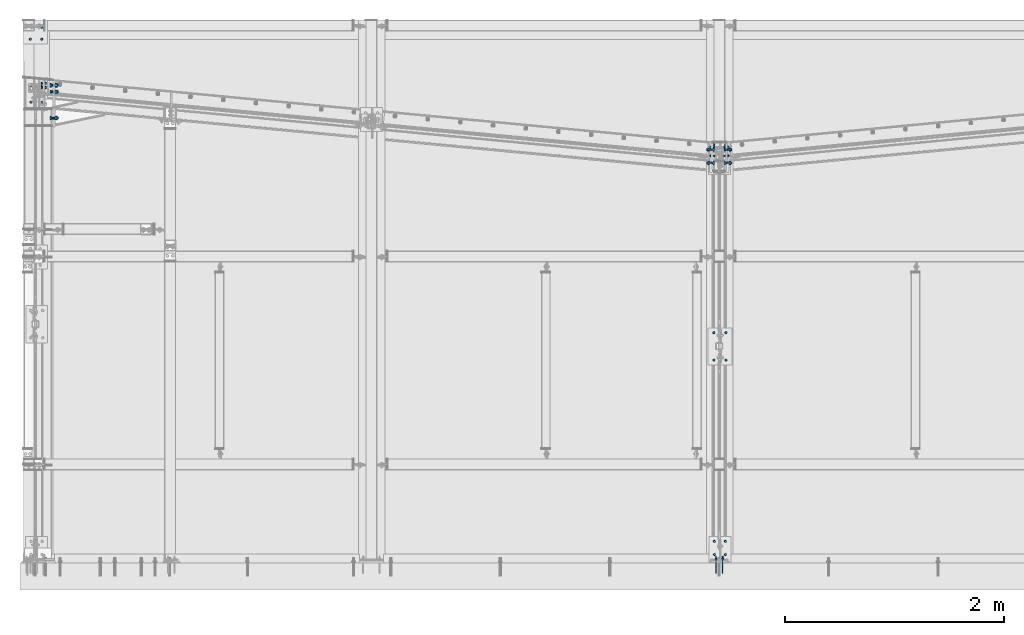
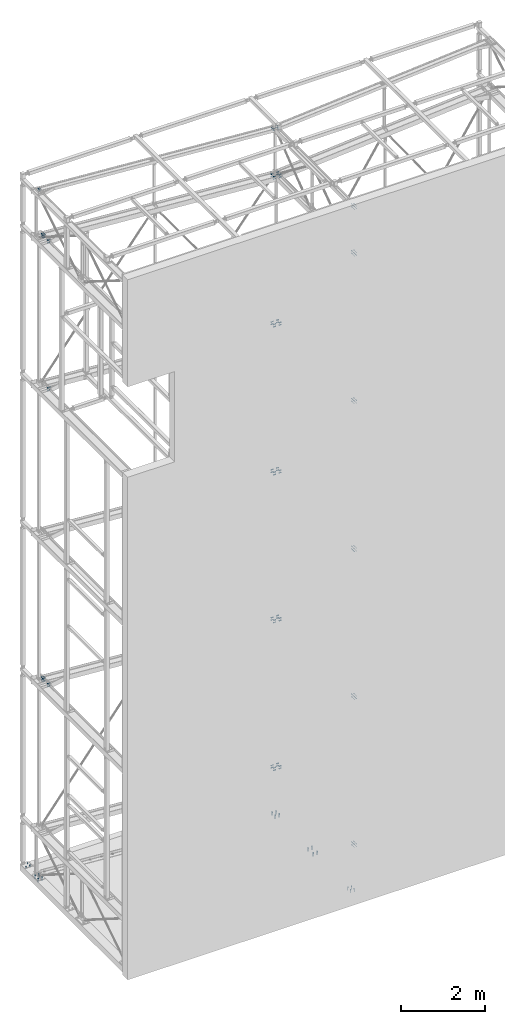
# One storey, part 220 of 271: 29 mechanical fasteners, 21 elements without a shape of their own.
"""IFC2X3 building model written with IfcOpenShell, lengths in millimetres."""

from ifc_helpers import new_model, si_unit, frame, origin_with_axes, origin_2d_with_axis, place, context, subcontext, project, spatial, polyline, circle, outline, extrude, source, transform, mapped, material, type_object, element, aggregate, save


model = new_model("IFC2X3")

# Units and contexts
model_context = context("Model", 3, precision=1e-05, world=origin_with_axes())
body_context = subcontext(model_context, "Body", "Model", "MODEL_VIEW")
ifc_project = project(units=[si_unit("LENGTHUNIT", "METRE", prefix="MILLI"), si_unit("AREAUNIT", "SQUARE_METRE"), si_unit("VOLUMEUNIT", "CUBIC_METRE"), si_unit("MASSUNIT", "GRAM", prefix="KILO"), si_unit("TIMEUNIT", "SECOND"), si_unit("PLANEANGLEUNIT", "RADIAN"), si_unit("SOLIDANGLEUNIT", "STERADIAN"), si_unit("THERMODYNAMICTEMPERATUREUNIT", "DEGREE_CELSIUS"), si_unit("LUMINOUSINTENSITYUNIT", "LUMEN")], contexts=[model_context])

# Site, building, storey
site_placement = place(None, origin_with_axes())
site = spatial("IfcSite", under=ifc_project, at=site_placement, Name="Undefined", CompositionType="ELEMENT")
building_placement = place(site_placement, origin_with_axes())
building = spatial("IfcBuilding", under=site, at=building_placement, Name="Undefined", CompositionType="ELEMENT")
storey_placement = place(building_placement, origin_with_axes())
storey = spatial("IfcBuildingStorey", under=building, at=storey_placement, Name="Undefined", CompositionType="ELEMENT", Elevation=0.0)

# Assembly, mechanical fastener
assembly_1_placement = place(storey_placement, origin_with_axes())
assembly_1 = element("IfcElementAssembly", 1, at=assembly_1_placement, inside=storey, Name="BELKA", AssemblyPlace="NOTDEFINED", PredefinedType="RIGID_FRAME")
ifc_material = material(Name="Undefined")
mechanical_fastener_type = type_object("IfcMechanicalFastenerType", Name="Bolt assembly")
shared_shape_1 = source(origin_with_axes(), body_context, "Body", "SweptSolid", [
    extrude(circle(Radius=7.0, at=origin_2d_with_axis()), frame((0.0, 0.0, 0.0), z_axis=(0.0, 1.0, 0.0), x_axis=(1.0, 0.0, 0.0)), (0.0, 0.0, 1.0), 16.1),
    extrude(outline(polyline([(10.39230484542, 0.0), (5.19615242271, 9.00000000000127), (-5.19615242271, 9.00000000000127), (-10.39230484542, 0.0), (-5.19615242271, -9.00000000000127), (5.19615242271, -9.00000000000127), (10.39230484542, 0.0)])), frame((0.0, -7.5, 0.0), z_axis=(0.0, 1.0, 0.0), x_axis=(1.0, 0.0, 0.0)), (0.0, 0.0, 1.0), 7.5),
    extrude(circle(Radius=6.0, at=origin_2d_with_axis()), frame((0.0, 0.0, 0.0), z_axis=(0.0, 1.0, 0.0), x_axis=(1.0, 0.0, 0.0)), (0.0, 0.0, 1.0), 35.0),
    extrude(circle(Radius=12.0, at=origin_2d_with_axis()), frame((0.0, 16.0, 0.0), z_axis=(0.0, 1.0, 0.0), x_axis=(1.0, 0.0, 0.0)), (0.0, 0.0, 1.0), 2.5),
    extrude(outline(polyline([(10.96965511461, 0.0), (5.484827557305, 9.50000000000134), (-5.484827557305, 9.50000000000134), (-10.96965511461, 0.0), (-5.484827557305, -9.50000000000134), (5.484827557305, -9.50000000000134), (10.96965511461, 0.0)])), frame((0.0, 18.5, 0.0), z_axis=(0.0, 1.0, 0.0), x_axis=(1.0, 0.0, 0.0)), (0.0, 0.0, 1.0), 10.0),
])
mechanical_fastener_1_placement = place(assembly_1_placement, frame((98.0, 4894.0, 0.0), z_axis=(1.0, 0.0, 0.0), x_axis=(0.0, -1.0, 0.0)))
mechanical_fastener_1 = element("IfcMechanicalFastener", 2, at=mechanical_fastener_1_placement, type_object=mechanical_fastener_type, material=ifc_material, Name="Bolt assembly", NominalDiameter=12.0, NominalLength=35.0, context=body_context, shape_type="MappedRepresentation", body=[
    mapped(shared_shape_1, transform((110.0, 0.0, -45.0))),
    mapped(shared_shape_1, transform((0.0, 0.0, 60.0))),
    mapped(shared_shape_1, transform((110.0, 0.0, 60.0))),
])
aggregate(assembly_1, [mechanical_fastener_1])

# Assembly, mechanical fasteners
assembly_2_placement = place(storey_placement, origin_with_axes())
assembly_2 = element("IfcElementAssembly", 3, at=assembly_2_placement, inside=storey, AssemblyPlace="NOTDEFINED", PredefinedType="REINFORCEMENT_UNIT")
shared_shape_2 = source(origin_with_axes(), body_context, "Body", "SweptSolid", [
    extrude(circle(Radius=7.0, at=origin_2d_with_axis()), frame((0.0, 0.0, 0.0), z_axis=(0.0, 1.0, 0.0), x_axis=(1.0, 0.0, 0.0)), (0.0, 0.0, 1.0), 16.1),
    extrude(outline(polyline([(10.39230484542, 0.0), (5.19615242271, 9.00000000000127), (-5.19615242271, 9.00000000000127), (-10.39230484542, 0.0), (-5.19615242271, -9.00000000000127), (5.19615242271, -9.00000000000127), (10.39230484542, 0.0)])), frame((0.0, -7.5, 0.0), z_axis=(0.0, 1.0, 0.0), x_axis=(1.0, 0.0, 0.0)), (0.0, 0.0, 1.0), 7.5),
    extrude(circle(Radius=6.0, at=origin_2d_with_axis()), frame((0.0, 0.0, 0.0), z_axis=(0.0, 1.0, 0.0), x_axis=(1.0, 0.0, 0.0)), (0.0, 0.0, 1.0), 100.0),
    extrude(circle(Radius=12.0, at=origin_2d_with_axis()), frame((0.0, 16.0, 0.0), z_axis=(0.0, 1.0, 0.0), x_axis=(1.0, 0.0, 0.0)), (0.0, 0.0, 1.0), 2.5),
    extrude(outline(polyline([(10.96965511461, 0.0), (5.484827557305, 9.50000000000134), (-5.484827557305, 9.50000000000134), (-10.96965511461, 0.0), (-5.484827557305, -9.50000000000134), (5.484827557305, -9.50000000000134), (10.96965511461, 0.0)])), frame((0.0, 18.5, 0.0), z_axis=(0.0, 1.0, 0.0), x_axis=(1.0, 0.0, 0.0)), (0.0, 0.0, 1.0), 10.0),
])
mechanical_fastener_2_placement = place(assembly_2_placement, frame((6350.99999997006, 3819.0, 0.0), z_axis=(1.0, 0.0, 0.0), x_axis=(0.0, -1.0, 0.0)))
mechanical_fastener_2 = element("IfcMechanicalFastener", 4, at=mechanical_fastener_2_placement, type_object=mechanical_fastener_type, material=ifc_material, Name="Bolt assembly", NominalDiameter=12.0, NominalLength=100.0, context=body_context, shape_type="MappedRepresentation", body=[
    mapped(shared_shape_2, transform((0.0, 0.0, -55.0))),
    mapped(shared_shape_2, transform((150.0, 0.0, -55.0000000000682))),
    mapped(shared_shape_2, transform((0.0, 0.0, 55.0))),
    mapped(shared_shape_2, transform((150.0, 0.0, 54.9999999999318))),
])
mechanical_fastener_3_placement = place(assembly_2_placement, frame((6353.99999995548, 2102.0, 0.0), z_axis=(1.0, 0.0, 0.0), x_axis=(0.0, -1.0, 0.0)))
mechanical_fastener_3 = element("IfcMechanicalFastener", 5, at=mechanical_fastener_3_placement, type_object=mechanical_fastener_type, material=ifc_material, Name="Bolt assembly", NominalDiameter=12.0, NominalLength=100.0, context=body_context, shape_type="MappedRepresentation", body=[
    mapped(shared_shape_2, transform((0.0, 0.0, -55.0))),
    mapped(shared_shape_2, transform((250.0, 0.0, -55.0000000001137))),
    mapped(shared_shape_2, transform((0.0, 0.0, 55.0))),
    mapped(shared_shape_2, transform((250.0, 0.0, 54.9999999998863))),
])
mechanical_fastener_4_placement = place(assembly_2_placement, frame((6352.99999996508, 195.0, 0.0), z_axis=(1.0, 0.0, 0.0), x_axis=(0.0, -1.0, 0.0)))
mechanical_fastener_4 = element("IfcMechanicalFastener", 6, at=mechanical_fastener_4_placement, type_object=mechanical_fastener_type, material=ifc_material, Name="Bolt assembly", NominalDiameter=12.0, NominalLength=100.0, context=body_context, shape_type="MappedRepresentation", body=[
    mapped(shared_shape_2, transform((0.0, 0.0, -50.0))),
    mapped(shared_shape_2, transform((120.0, 0.0, -50.0000000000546))),
    mapped(shared_shape_2, transform((0.0, 0.0, 50.0))),
    mapped(shared_shape_2, transform((120.0, 0.0, 49.9999999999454))),
])
aggregate(assembly_2, [mechanical_fastener_2, mechanical_fastener_3, mechanical_fastener_4])

# Assembly, mechanical fastener
assembly_3_placement = place(storey_placement, origin_with_axes())
assembly_3 = element("IfcElementAssembly", 7, at=assembly_3_placement, inside=storey, AssemblyPlace="NOTDEFINED", PredefinedType="REINFORCEMENT_UNIT")
mechanical_fastener_5_placement = place(assembly_3_placement, frame((110.999999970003, 4359.0, 0.0), z_axis=(1.0, 0.0, 0.0), x_axis=(0.0, -1.0, 0.0)))
mechanical_fastener_5 = element("IfcMechanicalFastener", 8, at=mechanical_fastener_5_placement, type_object=mechanical_fastener_type, material=ifc_material, Name="Bolt assembly", NominalDiameter=12.0, NominalLength=100.0, context=body_context, shape_type="MappedRepresentation", body=[
    mapped(shared_shape_2, transform((0.0, 0.0, -52.5))),
    mapped(shared_shape_2, transform((150.0, 0.0, -52.5))),
    mapped(shared_shape_2, transform((0.0, 0.0, 52.5))),
    mapped(shared_shape_2, transform((150.0, 0.0, 52.5))),
])
aggregate(assembly_3, [mechanical_fastener_5])

assembly_4_placement = place(storey_placement, origin_with_axes())
assembly_4 = element("IfcElementAssembly", 9, at=assembly_4_placement, inside=storey, AssemblyPlace="NOTDEFINED", PredefinedType="RIGID_FRAME")
shared_shape_3 = source(origin_with_axes(), body_context, "Body", "SweptSolid", [
    extrude(circle(Radius=7.0, at=origin_2d_with_axis()), frame((0.0, -12.0, 0.0), z_axis=(0.0, 1.0, 0.0), x_axis=(1.0, 0.0, 0.0)), (0.0, 0.0, 1.0), 12.1),
    extrude(outline(polyline([(5.80237031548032, 0.0), (2.90118515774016, 5.02500009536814), (-2.90118515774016, 5.02500009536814), (-5.80237031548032, 0.0), (-2.90118515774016, -5.02500009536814), (2.90118515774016, -5.02500009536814), (5.80237031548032, 0.0)])), frame((0.0, -128.0, 0.0), z_axis=(0.0, 1.0, 0.0), x_axis=(1.0, 0.0, 0.0)), (0.0, 0.0, 1.0), 116.0),
    extrude(circle(Radius=6.0, at=origin_2d_with_axis()), frame((0.0, -12.0, 0.0), z_axis=(0.0, 1.0, 0.0), x_axis=(1.0, 0.0, 0.0)), (0.0, 0.0, 1.0), 44.0),
    extrude(circle(Radius=12.0, at=origin_2d_with_axis()), frame((0.0, 0.0, 0.0), z_axis=(0.0, 1.0, 0.0), x_axis=(1.0, 0.0, 0.0)), (0.0, 0.0, 1.0), 2.5),
    extrude(outline(polyline([(10.96965511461, 0.0), (5.484827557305, 9.50000000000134), (-5.484827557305, 9.50000000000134), (-10.96965511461, 0.0), (-5.484827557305, -9.50000000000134), (5.484827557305, -9.50000000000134), (10.96965511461, 0.0)])), frame((0.0, 2.50000000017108, 0.0), z_axis=(0.0, 1.0, 0.0), x_axis=(1.0, 0.0, 0.0)), (0.0, 0.0, 1.0), 10.0),
])
mechanical_fastener_6_placement = place(assembly_4_placement, frame((6414.87568709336, 31.3249842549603, 1364.34999990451), z_axis=(0.0, 0.0, -1.0), x_axis=(-1.0, 0.0, 1.38777878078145e-17)))
mechanical_fastener_6 = element("IfcMechanicalFastener", 10, at=mechanical_fastener_6_placement, type_object=mechanical_fastener_type, material=ifc_material, Name="Bolt assembly", NominalDiameter=12.0, NominalLength=44.0, context=body_context, shape_type="MappedRepresentation", body=[
    mapped(shared_shape_3, transform((36.5, 0.0, -40.0))),
    mapped(shared_shape_3, transform((36.5, 0.0, 40.0))),
    mapped(shared_shape_3, transform((96.5, 0.0, -40.0))),
    mapped(shared_shape_3, transform((96.5, 0.0, 40.0))),
])
aggregate(assembly_4, [mechanical_fastener_6])

assembly_5_placement = place(storey_placement, origin_with_axes())
assembly_5 = element("IfcElementAssembly", 11, at=assembly_5_placement, inside=storey, AssemblyPlace="NOTDEFINED", PredefinedType="RIGID_FRAME")
mechanical_fastener_7_placement = place(assembly_5_placement, frame((6405.37568709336, 31.3249842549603, 20004.3499999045), z_axis=(0.0, 0.0, -1.0), x_axis=(-1.0, 0.0, 1.38777878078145e-17)))
mechanical_fastener_7 = element("IfcMechanicalFastener", 12, at=mechanical_fastener_7_placement, type_object=mechanical_fastener_type, material=ifc_material, Name="Bolt assembly", NominalDiameter=12.0, NominalLength=44.0, context=body_context, shape_type="MappedRepresentation", body=[
    mapped(shared_shape_3, transform((27.0, 0.0, -40.0))),
    mapped(shared_shape_3, transform((27.0, 0.0, 40.0))),
    mapped(shared_shape_3, transform((87.0, 0.0, -40.0))),
    mapped(shared_shape_3, transform((87.0, 0.0, 40.0))),
])
aggregate(assembly_5, [mechanical_fastener_7])

assembly_6_placement = place(storey_placement, origin_with_axes())
assembly_6 = element("IfcElementAssembly", 13, at=assembly_6_placement, inside=storey, AssemblyPlace="NOTDEFINED", PredefinedType="RIGID_FRAME")
mechanical_fastener_8_placement = place(assembly_6_placement, frame((6414.87568709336, 31.3249842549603, 18644.3499999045), z_axis=(0.0, 0.0, -1.0), x_axis=(-1.0, 0.0, 1.38777878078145e-17)))
mechanical_fastener_8 = element("IfcMechanicalFastener", 14, at=mechanical_fastener_8_placement, type_object=mechanical_fastener_type, material=ifc_material, Name="Bolt assembly", NominalDiameter=12.0, NominalLength=44.0, context=body_context, shape_type="MappedRepresentation", body=[
    mapped(shared_shape_3, transform((36.5, 0.0, -40.0))),
    mapped(shared_shape_3, transform((36.5, 0.0, 40.0))),
    mapped(shared_shape_3, transform((96.5, 0.0, -40.0))),
    mapped(shared_shape_3, transform((96.5, 0.0, 40.0))),
])
aggregate(assembly_6, [mechanical_fastener_8])

assembly_7_placement = place(storey_placement, origin_with_axes())
assembly_7 = element("IfcElementAssembly", 15, at=assembly_7_placement, inside=storey, AssemblyPlace="NOTDEFINED", PredefinedType="RIGID_FRAME")
mechanical_fastener_9_placement = place(assembly_7_placement, frame((6414.87568709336, 31.3249842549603, 5684.34999990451), z_axis=(0.0, 0.0, -1.0), x_axis=(-1.0, 0.0, 1.38777878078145e-17)))
mechanical_fastener_9 = element("IfcMechanicalFastener", 16, at=mechanical_fastener_9_placement, type_object=mechanical_fastener_type, material=ifc_material, Name="Bolt assembly", NominalDiameter=12.0, NominalLength=44.0, context=body_context, shape_type="MappedRepresentation", body=[
    mapped(shared_shape_3, transform((36.5, 0.0, -40.0))),
    mapped(shared_shape_3, transform((36.5, 0.0, 40.0))),
    mapped(shared_shape_3, transform((96.5, 0.0, -40.0))),
    mapped(shared_shape_3, transform((96.5, 0.0, 40.0))),
])
aggregate(assembly_7, [mechanical_fastener_9])

assembly_8_placement = place(storey_placement, origin_with_axes())
assembly_8 = element("IfcElementAssembly", 17, at=assembly_8_placement, inside=storey, AssemblyPlace="NOTDEFINED", PredefinedType="RIGID_FRAME")
mechanical_fastener_10_placement = place(assembly_8_placement, frame((6414.87568709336, 31.3249842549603, 10004.3499999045), z_axis=(0.0, 0.0, -1.0), x_axis=(-1.0, 0.0, 1.38777878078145e-17)))
mechanical_fastener_10 = element("IfcMechanicalFastener", 18, at=mechanical_fastener_10_placement, type_object=mechanical_fastener_type, material=ifc_material, Name="Bolt assembly", NominalDiameter=12.0, NominalLength=44.0, context=body_context, shape_type="MappedRepresentation", body=[
    mapped(shared_shape_3, transform((36.5, 0.0, -40.0))),
    mapped(shared_shape_3, transform((36.5, 0.0, 40.0))),
    mapped(shared_shape_3, transform((96.5, 0.0, -40.0))),
    mapped(shared_shape_3, transform((96.5, 0.0, 40.0))),
])
aggregate(assembly_8, [mechanical_fastener_10])

assembly_9_placement = place(storey_placement, origin_with_axes())
assembly_9 = element("IfcElementAssembly", 19, at=assembly_9_placement, inside=storey, AssemblyPlace="NOTDEFINED", PredefinedType="RIGID_FRAME")
mechanical_fastener_11_placement = place(assembly_9_placement, frame((6414.87568709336, 31.3249842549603, 14324.3499999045), z_axis=(0.0, 0.0, -1.0), x_axis=(-1.0, 0.0, 1.38777878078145e-17)))
mechanical_fastener_11 = element("IfcMechanicalFastener", 20, at=mechanical_fastener_11_placement, type_object=mechanical_fastener_type, material=ifc_material, Name="Bolt assembly", NominalDiameter=12.0, NominalLength=44.0, context=body_context, shape_type="MappedRepresentation", body=[
    mapped(shared_shape_3, transform((36.5, 0.0, -40.0))),
    mapped(shared_shape_3, transform((36.5, 0.0, 40.0))),
    mapped(shared_shape_3, transform((96.5, 0.0, -40.0))),
    mapped(shared_shape_3, transform((96.5, 0.0, 40.0))),
])
aggregate(assembly_9, [mechanical_fastener_11])

assembly_10_placement = place(storey_placement, origin_with_axes())
assembly_10 = element("IfcElementAssembly", 21, at=assembly_10_placement, inside=storey, AssemblyPlace="NOTDEFINED", PredefinedType="RIGID_FRAME")
shared_shape_4 = source(origin_with_axes(), body_context, "Body", "SweptSolid", [
    extrude(circle(Radius=6.5, at=origin_2d_with_axis()), frame((0.0, -15.9000000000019, 0.0), z_axis=(0.0, 1.0, 0.0), x_axis=(1.0, 0.0, 0.0)), (0.0, 0.0, 1.0), 8.0),
    extrude(circle(Radius=6.5, at=origin_2d_with_axis()), frame((0.0, -7.10000000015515, 0.0), z_axis=(0.0, 1.0, 0.0), x_axis=(1.0, 0.0, 0.0)), (0.0, 0.0, 1.0), 16.1),
    extrude(outline(polyline([(12.70170592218, 0.0), (6.35085296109, 11.0000000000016), (-6.35085296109, 11.0000000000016), (-12.70170592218, 0.0), (-6.35085296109, -11.0000000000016), (6.35085296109, -11.0000000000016), (12.70170592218, 0.0)])), frame((0.0, -27.0, 0.0), z_axis=(0.0, 1.0, 0.0), x_axis=(1.0, 0.0, 0.0)), (0.0, 0.0, 1.0), 8.0),
    extrude(circle(Radius=6.0, at=origin_2d_with_axis()), frame((0.0, -19.0000000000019, 0.0), z_axis=(0.0, 1.0, 0.0), x_axis=(1.0, 0.0, 0.0)), (0.0, 0.0, 1.0), 45.0),
    extrude(circle(Radius=12.0, at=origin_2d_with_axis()), frame((0.0, -19.0000000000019, 0.0), z_axis=(0.0, 1.0, 0.0), x_axis=(1.0, 0.0, 0.0)), (0.0, 0.0, 1.0), 3.0),
    extrude(circle(Radius=12.0, at=origin_2d_with_axis()), frame((0.0, 9.0, 0.0), z_axis=(0.0, 1.0, 0.0), x_axis=(1.0, 0.0, 0.0)), (0.0, 0.0, 1.0), 3.0),
    extrude(outline(polyline([(12.70170592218, 0.0), (6.35085296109, 11.0000000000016), (-6.35085296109, 11.0000000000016), (-12.70170592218, 0.0), (-6.35085296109, -11.0000000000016), (6.35085296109, -11.0000000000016), (12.70170592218, 0.0)])), frame((0.0, 11.9999999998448, 0.0), z_axis=(0.0, 1.0, 0.0), x_axis=(1.0, 0.0, 0.0)), (0.0, 0.0, 1.0), 10.0),
])
mechanical_fastener_12_placement = place(assembly_10_placement, frame((176.375687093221, 4381.93891228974, 20004.3499999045), z_axis=(0.0, 0.0, 1.0), x_axis=(0.0, -1.0, 0.0)))
mechanical_fastener_12 = element("IfcMechanicalFastener", 22, at=mechanical_fastener_12_placement, type_object=mechanical_fastener_type, material=ifc_material, Name="Bolt assembly", NominalDiameter=12.0, NominalLength=45.0, context=body_context, shape_type="MappedRepresentation", body=[
    mapped(shared_shape_4, transform((0.0, 0.0, -25.0))),
    mapped(shared_shape_4, transform((0.0, 0.0, 25.0))),
    mapped(shared_shape_4, transform((40.0, -1.13686837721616e-13, -25.0))),
    mapped(shared_shape_4, transform((40.0, -1.13686837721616e-13, 25.0))),
])

assembly_11_placement = place(storey_placement, origin_with_axes())
assembly_11 = element("IfcElementAssembly", 23, at=assembly_11_placement, inside=storey, AssemblyPlace="NOTDEFINED", PredefinedType="RIGID_FRAME")
shared_shape_5 = source(origin_with_axes(), body_context, "Body", "SweptSolid", [
    extrude(circle(Radius=6.5, at=origin_2d_with_axis()), frame((0.0, -15.9000000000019, 0.0), z_axis=(0.0, 1.0, 0.0), x_axis=(1.0, 0.0, 0.0)), (0.0, 0.0, 1.0), 8.0),
    extrude(circle(Radius=6.5, at=origin_2d_with_axis()), frame((0.0, -7.10000000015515, 0.0), z_axis=(0.0, 1.0, 0.0), x_axis=(1.0, 0.0, 0.0)), (0.0, 0.0, 1.0), 16.1),
    extrude(outline(polyline([(10.39230484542, 0.0), (5.19615242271, 9.00000000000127), (-5.19615242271, 9.00000000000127), (-10.39230484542, 0.0), (-5.19615242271, -9.00000000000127), (5.19615242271, -9.00000000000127), (10.39230484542, 0.0)])), frame((0.0, -25.9999999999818, 0.0), z_axis=(0.0, 1.0, 0.0), x_axis=(1.0, 0.0, 0.0)), (0.0, 0.0, 1.0), 7.5),
    extrude(circle(Radius=6.0, at=origin_2d_with_axis()), frame((0.0, -18.4999999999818, 0.0), z_axis=(0.0, 1.0, 0.0), x_axis=(1.0, 0.0, 0.0)), (0.0, 0.0, 1.0), 45.0),
    extrude(circle(Radius=12.0, at=origin_2d_with_axis()), frame((0.0, -18.4999999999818, 0.0), z_axis=(0.0, 1.0, 0.0), x_axis=(1.0, 0.0, 0.0)), (0.0, 0.0, 1.0), 2.5),
    extrude(circle(Radius=12.0, at=origin_2d_with_axis()), frame((0.0, 9.0, 0.0), z_axis=(0.0, 1.0, 0.0), x_axis=(1.0, 0.0, 0.0)), (0.0, 0.0, 1.0), 2.5),
    extrude(outline(polyline([(10.96965511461, 0.0), (5.484827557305, 9.50000000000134), (-5.484827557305, 9.50000000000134), (-10.96965511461, 0.0), (-5.484827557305, -9.50000000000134), (5.484827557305, -9.50000000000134), (10.96965511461, 0.0)])), frame((0.0, 11.5, 0.0), z_axis=(0.0, 1.0, 0.0), x_axis=(1.0, 0.0, 0.0)), (0.0, 0.0, 1.0), 10.0),
])
mechanical_fastener_13_placement = place(assembly_11_placement, frame((6413.37568709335, 3797.50494766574, 20004.3499999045), z_axis=(0.0, 0.0, 1.0), x_axis=(0.0, -1.0, 0.0)))
mechanical_fastener_13 = element("IfcMechanicalFastener", 24, at=mechanical_fastener_13_placement, type_object=mechanical_fastener_type, material=ifc_material, Name="Bolt assembly", NominalDiameter=12.0, NominalLength=45.0, context=body_context, shape_type="MappedRepresentation", body=[
    mapped(shared_shape_5, transform((0.0, 0.0, -27.5))),
    mapped(shared_shape_5, transform((0.0, 0.0, 27.5))),
    mapped(shared_shape_5, transform((80.0, 0.0, -27.5))),
    mapped(shared_shape_5, transform((80.0, 0.0, 27.5))),
])
aggregate(assembly_11, [mechanical_fastener_13])

# Mechanical fastener
mechanical_fastener_14_placement = place(assembly_10_placement, frame((6283.37568709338, 3797.50494771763, 20004.3499999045), z_axis=(0.0, 0.0, -1.0), x_axis=(0.0, -1.0, 0.0)))
mechanical_fastener_14 = element("IfcMechanicalFastener", 25, at=mechanical_fastener_14_placement, type_object=mechanical_fastener_type, material=ifc_material, Name="Bolt assembly", NominalDiameter=12.0, NominalLength=45.0, context=body_context, shape_type="MappedRepresentation", body=[
    mapped(shared_shape_5, transform((0.0, 0.0, -27.5))),
    mapped(shared_shape_5, transform((0.0, 0.0, 27.5))),
    mapped(shared_shape_5, transform((80.0, 0.0, -27.5))),
    mapped(shared_shape_5, transform((80.0, 0.0, 27.5))),
])

aggregate(assembly_10, [mechanical_fastener_12, mechanical_fastener_14])

# Assembly, mechanical fastener
assembly_12_placement = place(storey_placement, origin_with_axes())
assembly_12 = element("IfcElementAssembly", 26, at=assembly_12_placement, inside=storey, AssemblyPlace="NOTDEFINED", PredefinedType="RIGID_FRAME")
shared_shape_6 = source(origin_with_axes(), body_context, "Body", "SweptSolid", [
    extrude(circle(Radius=11.0, at=origin_2d_with_axis()), frame((0.0, -19.8999999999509, 0.0), z_axis=(0.0, 1.0, 0.0), x_axis=(1.0, 0.0, 0.0)), (0.0, 0.0, 1.0), 8.5),
    extrude(circle(Radius=11.0, at=origin_2d_with_axis()), frame((0.0, -10.6, 0.0), z_axis=(0.0, 1.0, 0.0), x_axis=(1.0, 0.0, 0.0)), (0.0, 0.0, 1.0), 20.1),
    extrude(outline(polyline([(17.3205080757, 0.0), (8.66025403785, 15.0000000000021), (-8.66025403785, 15.0000000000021), (-17.3205080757, 0.0), (-8.66025403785, -15.0000000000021), (8.66025403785, -15.0000000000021), (17.3205080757, 0.0)])), frame((0.0, -35.4999999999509, 0.0), z_axis=(0.0, 1.0, 0.0), x_axis=(1.0, 0.0, 0.0)), (0.0, 0.0, 1.0), 12.5),
    extrude(circle(Radius=10.0, at=origin_2d_with_axis()), frame((0.0, -22.9999999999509, 0.0), z_axis=(0.0, 1.0, 0.0), x_axis=(1.0, 0.0, 0.0)), (0.0, 0.0, 1.0), 60.0),
    extrude(circle(Radius=18.5, at=origin_2d_with_axis()), frame((0.0, -22.9999999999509, 0.0), z_axis=(0.0, 1.0, 0.0), x_axis=(1.0, 0.0, 0.0)), (0.0, 0.0, 1.0), 3.0),
    extrude(circle(Radius=18.5, at=origin_2d_with_axis()), frame((0.0, 9.5, 0.0), z_axis=(0.0, 1.0, 0.0), x_axis=(1.0, 0.0, 0.0)), (0.0, 0.0, 1.0), 3.0),
    extrude(outline(polyline([(17.3205080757, 0.0), (8.66025403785, 15.0000000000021), (-8.66025403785, 15.0000000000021), (-17.3205080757, 0.0), (-8.66025403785, -15.0000000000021), (8.66025403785, -15.0000000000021), (17.3205080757, 0.0)])), frame((0.0, 12.500000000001, 0.0), z_axis=(0.0, 1.0, 0.0), x_axis=(1.0, 0.0, 0.0)), (0.0, 0.0, 1.0), 16.0),
])
mechanical_fastener_15_placement = place(assembly_12_placement, frame((6270.37568709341, 3773.77853262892, 18644.3499999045), z_axis=(0.0, 0.0, -1.0), x_axis=(0.0, -1.0, 0.0)))
mechanical_fastener_15 = element("IfcMechanicalFastener", 27, at=mechanical_fastener_15_placement, type_object=mechanical_fastener_type, material=ifc_material, Name="Bolt assembly", NominalDiameter=20.0, NominalLength=60.0, context=body_context, shape_type="MappedRepresentation", body=[
    mapped(shared_shape_6, transform((-4.83169060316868e-13, 0.0, -35.0))),
    mapped(shared_shape_6, transform((5.11590769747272e-13, 0.0, 35.0))),
    mapped(shared_shape_6, transform((120.0, 0.0, -35.0000000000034))),
    mapped(shared_shape_6, transform((120.000000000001, 0.0, 34.9999999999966))),
])

assembly_13_placement = place(storey_placement, origin_with_axes())
assembly_13 = element("IfcElementAssembly", 28, at=assembly_13_placement, inside=storey, AssemblyPlace="NOTDEFINED", PredefinedType="RIGID_FRAME")
mechanical_fastener_16_placement = place(assembly_13_placement, frame((6270.37568709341, 3773.77853262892, 14324.3499999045), z_axis=(0.0, 0.0, -1.0), x_axis=(0.0, -1.0, 0.0)))
mechanical_fastener_16 = element("IfcMechanicalFastener", 29, at=mechanical_fastener_16_placement, type_object=mechanical_fastener_type, material=ifc_material, Name="Bolt assembly", NominalDiameter=20.0, NominalLength=60.0, context=body_context, shape_type="MappedRepresentation", body=[
    mapped(shared_shape_6, transform((-4.83169060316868e-13, 0.0, -35.0))),
    mapped(shared_shape_6, transform((5.11590769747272e-13, 0.0, 35.0))),
    mapped(shared_shape_6, transform((120.0, 0.0, -35.0000000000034))),
    mapped(shared_shape_6, transform((120.000000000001, 0.0, 34.9999999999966))),
])

assembly_14_placement = place(storey_placement, origin_with_axes())
assembly_14 = element("IfcElementAssembly", 30, at=assembly_14_placement, inside=storey, AssemblyPlace="NOTDEFINED", PredefinedType="RIGID_FRAME")
mechanical_fastener_17_placement = place(assembly_14_placement, frame((6270.37568709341, 3773.77853262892, 5684.34999990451), z_axis=(0.0, 0.0, -1.0), x_axis=(0.0, -1.0, 0.0)))
mechanical_fastener_17 = element("IfcMechanicalFastener", 31, at=mechanical_fastener_17_placement, type_object=mechanical_fastener_type, material=ifc_material, Name="Bolt assembly", NominalDiameter=20.0, NominalLength=60.0, context=body_context, shape_type="MappedRepresentation", body=[
    mapped(shared_shape_6, transform((-4.83169060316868e-13, 0.0, -35.0))),
    mapped(shared_shape_6, transform((5.11590769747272e-13, 0.0, 35.0))),
    mapped(shared_shape_6, transform((120.0, 0.0, -35.0000000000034))),
    mapped(shared_shape_6, transform((120.000000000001, 0.0, 34.9999999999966))),
])

assembly_15_placement = place(storey_placement, origin_with_axes())
assembly_15 = element("IfcElementAssembly", 32, at=assembly_15_placement, inside=storey, AssemblyPlace="NOTDEFINED", PredefinedType="RIGID_FRAME")
mechanical_fastener_18_placement = place(assembly_15_placement, frame((6270.37568709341, 3773.77853262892, 1364.34999990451), z_axis=(0.0, 0.0, -1.0), x_axis=(0.0, -1.0, 0.0)))
mechanical_fastener_18 = element("IfcMechanicalFastener", 33, at=mechanical_fastener_18_placement, type_object=mechanical_fastener_type, material=ifc_material, Name="Bolt assembly", NominalDiameter=20.0, NominalLength=60.0, context=body_context, shape_type="MappedRepresentation", body=[
    mapped(shared_shape_6, transform((-4.83169060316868e-13, 0.0, -35.0))),
    mapped(shared_shape_6, transform((5.11590769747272e-13, 0.0, 35.0))),
    mapped(shared_shape_6, transform((120.0, 0.0, -35.0000000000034))),
    mapped(shared_shape_6, transform((120.000000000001, 0.0, 34.9999999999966))),
])
aggregate(assembly_15, [mechanical_fastener_18])

assembly_16_placement = place(storey_placement, origin_with_axes())
assembly_16 = element("IfcElementAssembly", 34, at=assembly_16_placement, inside=storey, AssemblyPlace="NOTDEFINED", PredefinedType="RIGID_FRAME")
mechanical_fastener_19_placement = place(assembly_16_placement, frame((6426.37568709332, 3773.77853257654, 18644.3499999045), z_axis=(0.0, 0.0, 1.0), x_axis=(0.0, -1.0, 0.0)))
mechanical_fastener_19 = element("IfcMechanicalFastener", 35, at=mechanical_fastener_19_placement, type_object=mechanical_fastener_type, material=ifc_material, Name="Bolt assembly", NominalDiameter=20.0, NominalLength=60.0, context=body_context, shape_type="MappedRepresentation", body=[
    mapped(shared_shape_6, transform((-4.83169060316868e-13, 0.0, -35.0))),
    mapped(shared_shape_6, transform((5.11590769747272e-13, 0.0, 35.0))),
    mapped(shared_shape_6, transform((120.0, 0.0, -35.0000000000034))),
    mapped(shared_shape_6, transform((120.000000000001, 0.0, 34.9999999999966))),
])
aggregate(assembly_16, [mechanical_fastener_19])

assembly_17_placement = place(storey_placement, origin_with_axes())
assembly_17 = element("IfcElementAssembly", 36, at=assembly_17_placement, inside=storey, AssemblyPlace="NOTDEFINED", PredefinedType="RIGID_FRAME")
mechanical_fastener_20_placement = place(assembly_17_placement, frame((6426.37568709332, 3773.77853257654, 14324.3499999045), z_axis=(0.0, 0.0, 1.0), x_axis=(0.0, -1.0, 0.0)))
mechanical_fastener_20 = element("IfcMechanicalFastener", 37, at=mechanical_fastener_20_placement, type_object=mechanical_fastener_type, material=ifc_material, Name="Bolt assembly", NominalDiameter=20.0, NominalLength=60.0, context=body_context, shape_type="MappedRepresentation", body=[
    mapped(shared_shape_6, transform((-4.83169060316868e-13, 0.0, -35.0))),
    mapped(shared_shape_6, transform((5.11590769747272e-13, 0.0, 35.0))),
    mapped(shared_shape_6, transform((120.0, 0.0, -35.0000000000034))),
    mapped(shared_shape_6, transform((120.000000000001, 0.0, 34.9999999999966))),
])
aggregate(assembly_17, [mechanical_fastener_20])

assembly_18_placement = place(storey_placement, origin_with_axes())
assembly_18 = element("IfcElementAssembly", 38, at=assembly_18_placement, inside=storey, AssemblyPlace="NOTDEFINED", PredefinedType="RIGID_FRAME")
mechanical_fastener_21_placement = place(assembly_18_placement, frame((6426.37568709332, 3773.77853257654, 5684.34999990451), z_axis=(0.0, 0.0, 1.0), x_axis=(0.0, -1.0, 0.0)))
mechanical_fastener_21 = element("IfcMechanicalFastener", 39, at=mechanical_fastener_21_placement, type_object=mechanical_fastener_type, material=ifc_material, Name="Bolt assembly", NominalDiameter=20.0, NominalLength=60.0, context=body_context, shape_type="MappedRepresentation", body=[
    mapped(shared_shape_6, transform((-4.83169060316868e-13, 0.0, -35.0))),
    mapped(shared_shape_6, transform((5.11590769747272e-13, 0.0, 35.0))),
    mapped(shared_shape_6, transform((120.0, 0.0, -35.0000000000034))),
    mapped(shared_shape_6, transform((120.000000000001, 0.0, 34.9999999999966))),
])
aggregate(assembly_18, [mechanical_fastener_21])

assembly_19_placement = place(storey_placement, origin_with_axes())
assembly_19 = element("IfcElementAssembly", 40, at=assembly_19_placement, inside=storey, AssemblyPlace="NOTDEFINED", PredefinedType="RIGID_FRAME")
mechanical_fastener_22_placement = place(assembly_19_placement, frame((6426.37568709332, 3773.77853257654, 1364.34999990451), z_axis=(0.0, 0.0, 1.0), x_axis=(0.0, -1.0, 0.0)))
mechanical_fastener_22 = element("IfcMechanicalFastener", 41, at=mechanical_fastener_22_placement, type_object=mechanical_fastener_type, material=ifc_material, Name="Bolt assembly", NominalDiameter=20.0, NominalLength=60.0, context=body_context, shape_type="MappedRepresentation", body=[
    mapped(shared_shape_6, transform((-4.83169060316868e-13, 0.0, -35.0))),
    mapped(shared_shape_6, transform((5.11590769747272e-13, 0.0, 35.0))),
    mapped(shared_shape_6, transform((120.0, 0.0, -35.0000000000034))),
    mapped(shared_shape_6, transform((120.000000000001, 0.0, 34.9999999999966))),
])
aggregate(assembly_19, [mechanical_fastener_22])

assembly_20_placement = place(storey_placement, origin_with_axes())
assembly_20 = element("IfcElementAssembly", 42, at=assembly_20_placement, inside=storey, AssemblyPlace="NOTDEFINED", PredefinedType="RIGID_FRAME")
mechanical_fastener_23_placement = place(assembly_20_placement, frame((6426.37568709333, 3773.77853257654, 10004.3499999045), z_axis=(0.0, 0.0, 1.0), x_axis=(0.0, -1.0, 0.0)))
mechanical_fastener_23 = element("IfcMechanicalFastener", 43, at=mechanical_fastener_23_placement, type_object=mechanical_fastener_type, material=ifc_material, Name="Bolt assembly", NominalDiameter=20.0, NominalLength=60.0, context=body_context, shape_type="MappedRepresentation", body=[
    mapped(shared_shape_6, transform((-4.83169060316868e-13, 0.0, -35.0))),
    mapped(shared_shape_6, transform((5.11590769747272e-13, 0.0, 35.0))),
    mapped(shared_shape_6, transform((120.0, 0.0, -35.0000000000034))),
    mapped(shared_shape_6, transform((120.000000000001, 0.0, 34.9999999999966))),
])
aggregate(assembly_20, [mechanical_fastener_23])

assembly_21_placement = place(storey_placement, origin_with_axes())
assembly_21 = element("IfcElementAssembly", 44, at=assembly_21_placement, inside=storey, AssemblyPlace="NOTDEFINED", PredefinedType="RIGID_FRAME")
mechanical_fastener_24_placement = place(assembly_21_placement, frame((6270.3756870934, 3773.77853262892, 10004.3499999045), z_axis=(0.0, 0.0, -1.0), x_axis=(0.0, -1.0, 0.0)))
mechanical_fastener_24 = element("IfcMechanicalFastener", 45, at=mechanical_fastener_24_placement, type_object=mechanical_fastener_type, material=ifc_material, Name="Bolt assembly", NominalDiameter=20.0, NominalLength=60.0, context=body_context, shape_type="MappedRepresentation", body=[
    mapped(shared_shape_6, transform((-4.83169060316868e-13, 0.0, -35.0))),
    mapped(shared_shape_6, transform((5.11590769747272e-13, 0.0, 35.0))),
    mapped(shared_shape_6, transform((120.0, 0.0, -35.0000000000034))),
    mapped(shared_shape_6, transform((120.000000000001, 0.0, 34.9999999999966))),
])
aggregate(assembly_21, [mechanical_fastener_24])

# Mechanical fastener
shared_shape_7 = source(origin_with_axes(), body_context, "Body", "SweptSolid", [
    extrude(circle(Radius=11.0, at=origin_2d_with_axis()), frame((0.0, -19.8999999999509, 0.0), z_axis=(0.0, 1.0, 0.0), x_axis=(1.0, 0.0, 0.0)), (0.0, 0.0, 1.0), 10.2),
    extrude(circle(Radius=11.0, at=origin_2d_with_axis()), frame((0.0, -8.90000018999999, 0.0), z_axis=(0.0, 1.0, 0.0), x_axis=(1.0, 0.0, 0.0)), (0.0, 0.0, 1.0), 20.1),
    extrude(outline(polyline([(18.47520861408, 0.0), (9.23760430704, 16.0000000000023), (-9.23760430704, 16.0000000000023), (-18.47520861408, 0.0), (-9.23760430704, -16.0000000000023), (9.23760430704, -16.0000000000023), (18.47520861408, 0.0)])), frame((0.0, -37.0000000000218, 0.0), z_axis=(0.0, 1.0, 0.0), x_axis=(1.0, 0.0, 0.0)), (0.0, 0.0, 1.0), 13.0),
    extrude(circle(Radius=10.0, at=origin_2d_with_axis()), frame((0.0, -24.0000000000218, 0.0), z_axis=(0.0, 1.0, 0.0), x_axis=(1.0, 0.0, 0.0)), (0.0, 0.0, 1.0), 65.0),
    extrude(circle(Radius=18.5, at=origin_2d_with_axis()), frame((0.0, -24.0000000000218, 0.0), z_axis=(0.0, 1.0, 0.0), x_axis=(1.0, 0.0, 0.0)), (0.0, 0.0, 1.0), 4.0),
    extrude(circle(Radius=18.5, at=origin_2d_with_axis()), frame((0.0, 11.19999981, 0.0), z_axis=(0.0, 1.0, 0.0), x_axis=(1.0, 0.0, 0.0)), (0.0, 0.0, 1.0), 4.0),
    extrude(outline(polyline([(18.47520861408, 0.0), (9.23760430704, 16.0000000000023), (-9.23760430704, 16.0000000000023), (-18.47520861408, 0.0), (-9.23760430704, -16.0000000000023), (9.23760430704, -16.0000000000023), (18.47520861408, 0.0)])), frame((0.0, 15.19999981, 0.0), z_axis=(0.0, 1.0, 0.0), x_axis=(1.0, 0.0, 0.0)), (0.0, 0.0, 1.0), 16.0),
])
mechanical_fastener_25_placement = place(assembly_14_placement, frame((268.175687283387, 4062.62364236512, 5684.34999990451), z_axis=(0.0, 0.0, -1.0), x_axis=(0.0, 1.0, 0.0)))
mechanical_fastener_25 = element("IfcMechanicalFastener", 46, at=mechanical_fastener_25_placement, type_object=mechanical_fastener_type, material=ifc_material, Name="Bolt assembly", NominalDiameter=20.0, NominalLength=65.0, context=body_context, shape_type="MappedRepresentation", body=[
    mapped(shared_shape_7, transform((0.0, 0.0, -37.5))),
    mapped(shared_shape_7, transform((0.0, 0.0, 37.5))),
])

mechanical_fastener_26_placement = place(assembly_14_placement, frame((268.175687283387, 4363.0709877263, 5684.34999990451), z_axis=(0.0, 0.0, 1.0), x_axis=(0.0, -1.0, 0.0)))
mechanical_fastener_26 = element("IfcMechanicalFastener", 47, at=mechanical_fastener_26_placement, type_object=mechanical_fastener_type, material=ifc_material, Name="Bolt assembly", NominalDiameter=20.0, NominalLength=65.0, context=body_context, shape_type="MappedRepresentation", body=[
    mapped(shared_shape_7, transform((0.0, 0.0, -37.5))),
    mapped(shared_shape_7, transform((0.0, 0.0, 37.5))),
    mapped(shared_shape_7, transform((60.0, 0.0, -37.5))),
    mapped(shared_shape_7, transform((60.0, 0.0, 37.5))),
])

aggregate(assembly_14, [mechanical_fastener_17, mechanical_fastener_25, mechanical_fastener_26])

mechanical_fastener_27_placement = place(assembly_12_placement, frame((268.175687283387, 4062.62364236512, 18644.3499999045), z_axis=(0.0, 0.0, -1.0), x_axis=(0.0, 1.0, 0.0)))
mechanical_fastener_27 = element("IfcMechanicalFastener", 48, at=mechanical_fastener_27_placement, type_object=mechanical_fastener_type, material=ifc_material, Name="Bolt assembly", NominalDiameter=20.0, NominalLength=65.0, context=body_context, shape_type="MappedRepresentation", body=[
    mapped(shared_shape_7, transform((0.0, 0.0, -37.5))),
    mapped(shared_shape_7, transform((0.0, 0.0, 37.5))),
])

mechanical_fastener_28_placement = place(assembly_12_placement, frame((268.175687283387, 4363.0709877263, 18644.3499999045), z_axis=(0.0, 0.0, 1.0), x_axis=(0.0, -1.0, 0.0)))
mechanical_fastener_28 = element("IfcMechanicalFastener", 49, at=mechanical_fastener_28_placement, type_object=mechanical_fastener_type, material=ifc_material, Name="Bolt assembly", NominalDiameter=20.0, NominalLength=65.0, context=body_context, shape_type="MappedRepresentation", body=[
    mapped(shared_shape_7, transform((0.0, 0.0, -37.5))),
    mapped(shared_shape_7, transform((0.0, 0.0, 37.5))),
    mapped(shared_shape_7, transform((60.0, 0.0, -37.5))),
    mapped(shared_shape_7, transform((60.0, 0.0, 37.5))),
])

aggregate(assembly_12, [mechanical_fastener_15, mechanical_fastener_27, mechanical_fastener_28])

mechanical_fastener_29_placement = place(assembly_13_placement, frame((268.175687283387, 4062.62364236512, 14324.3499999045), z_axis=(0.0, 0.0, -1.0), x_axis=(0.0, 1.0, 0.0)))
mechanical_fastener_29 = element("IfcMechanicalFastener", 50, at=mechanical_fastener_29_placement, type_object=mechanical_fastener_type, material=ifc_material, Name="Bolt assembly", NominalDiameter=20.0, NominalLength=65.0, context=body_context, shape_type="MappedRepresentation", body=[
    mapped(shared_shape_7, transform((0.0, 0.0, -37.5))),
    mapped(shared_shape_7, transform((0.0, 0.0, 37.5))),
])

aggregate(assembly_13, [mechanical_fastener_16, mechanical_fastener_29])

save(model, "model.ifc")
